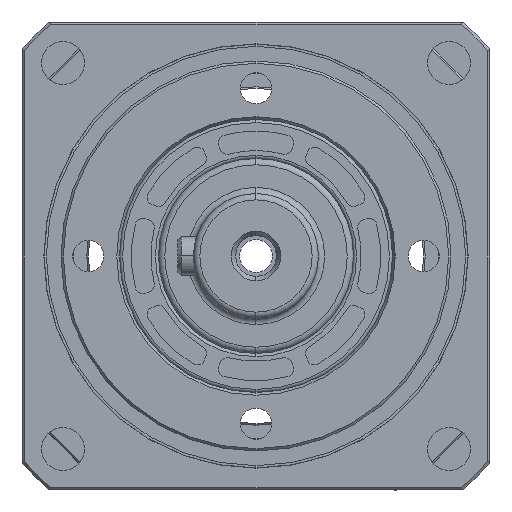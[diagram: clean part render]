
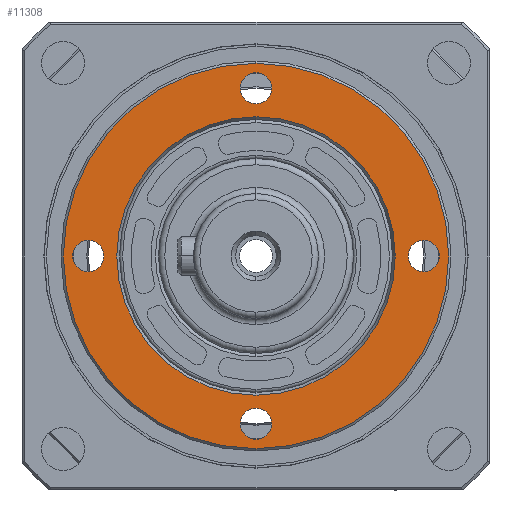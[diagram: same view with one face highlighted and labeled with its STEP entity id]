
A CAD part, left-side view. The second image highlights one B-rep face of the part: STEP entity #11308.
In plain terms, the highlighted planar face has unit normal (-1, 0, 0).
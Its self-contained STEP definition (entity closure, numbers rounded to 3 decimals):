
#87 = CIRCLE ( 'NONE', #8966, 2. ) ;
#105 = CIRCLE ( 'NONE', #8947, 2. ) ;
#169 = CIRCLE ( 'NONE', #1376, 17.846 ) ;
#1063 = EDGE_CURVE ( 'NONE', #4603, #4316, #169, .T. ) ;
#1101 = EDGE_CURVE ( 'NONE', #4268, #4592, #105, .T. ) ;
#1115 = EDGE_CURVE ( 'NONE', #4903, #5336, #87, .T. ) ;
#1144 = EDGE_CURVE ( 'NONE', #5336, #4903, #7669, .T. ) ;
#1145 = EDGE_CURVE ( 'NONE', #5014, #5523, #7677, .T. ) ;
#1146 = EDGE_CURVE ( 'NONE', #4592, #4268, #7683, .T. ) ;
#1151 = EDGE_CURVE ( 'NONE', #5032, #4926, #7712, .T. ) ;
#1177 = EDGE_CURVE ( 'NONE', #4316, #4603, #7520, .T. ) ;
#1178 = EDGE_CURVE ( 'NONE', #4685, #4678, #7738, .T. ) ;
#1182 = EDGE_CURVE ( 'NONE', #4926, #5032, #7740, .T. ) ;
#1186 = EDGE_CURVE ( 'NONE', #5523, #5014, #7626, .T. ) ;
#1333 = EDGE_CURVE ( 'NONE', #4678, #4685, #7233, .T. ) ;
#1376 = AXIS2_PLACEMENT_3D ( 'NONE', #13800, #13714, #13796 ) ;
#2892 = CARTESIAN_POINT ( 'NONE',  ( -43.961, -1.675, 17.846 ) ) ;
#3012 = CARTESIAN_POINT ( 'NONE',  ( -43.961, -1.675, -17.846 ) ) ;
#3027 = CARTESIAN_POINT ( 'NONE',  ( -43.961, 19.825, -2. ) ) ;
#3128 = CARTESIAN_POINT ( 'NONE',  ( -43.961, -1.675, 24.7 ) ) ;
#3149 = CARTESIAN_POINT ( 'NONE',  ( -43.961, -1.675, -24.7 ) ) ;
#3203 = CARTESIAN_POINT ( 'NONE',  ( -43.961, 19.825, 2. ) ) ;
#4268 = VERTEX_POINT ( 'NONE', #3027 ) ;
#4316 = VERTEX_POINT ( 'NONE', #2892 ) ;
#4592 = VERTEX_POINT ( 'NONE', #3203 ) ;
#4603 = VERTEX_POINT ( 'NONE', #3012 ) ;
#4678 = VERTEX_POINT ( 'NONE', #3128 ) ;
#4685 = VERTEX_POINT ( 'NONE', #3149 ) ;
#4903 = VERTEX_POINT ( 'NONE', #11674 ) ;
#4926 = VERTEX_POINT ( 'NONE', #11634 ) ;
#5014 = VERTEX_POINT ( 'NONE', #11617 ) ;
#5032 = VERTEX_POINT ( 'NONE', #11592 ) ;
#5336 = VERTEX_POINT ( 'NONE', #11444 ) ;
#5523 = VERTEX_POINT ( 'NONE', #11600 ) ;
#5720 = EDGE_LOOP ( 'NONE', ( #6874, #6872 ) ) ;
#5725 = EDGE_LOOP ( 'NONE', ( #6871, #6884 ) ) ;
#5728 = EDGE_LOOP ( 'NONE', ( #6891, #6892 ) ) ;
#5729 = EDGE_LOOP ( 'NONE', ( #6987, #6890 ) ) ;
#5731 = EDGE_LOOP ( 'NONE', ( #6889, #6901 ) ) ;
#5733 = EDGE_LOOP ( 'NONE', ( #6900, #6879 ) ) ;
#6871 = ORIENTED_EDGE ( 'NONE', *, *, #1144, .F. ) ;
#6872 = ORIENTED_EDGE ( 'NONE', *, *, #1101, .F. ) ;
#6874 = ORIENTED_EDGE ( 'NONE', *, *, #1146, .F. ) ;
#6879 = ORIENTED_EDGE ( 'NONE', *, *, #1063, .F. ) ;
#6884 = ORIENTED_EDGE ( 'NONE', *, *, #1115, .F. ) ;
#6889 = ORIENTED_EDGE ( 'NONE', *, *, #1178, .T. ) ;
#6890 = ORIENTED_EDGE ( 'NONE', *, *, #1151, .F. ) ;
#6891 = ORIENTED_EDGE ( 'NONE', *, *, #1186, .F. ) ;
#6892 = ORIENTED_EDGE ( 'NONE', *, *, #1145, .F. ) ;
#6900 = ORIENTED_EDGE ( 'NONE', *, *, #1177, .F. ) ;
#6901 = ORIENTED_EDGE ( 'NONE', *, *, #1333, .T. ) ;
#6987 = ORIENTED_EDGE ( 'NONE', *, *, #1182, .F. ) ;
#7233 = CIRCLE ( 'NONE', #8555, 24.7 ) ;
#7520 = CIRCLE ( 'NONE', #8959, 17.846 ) ;
#7626 = CIRCLE ( 'NONE', #8983, 2. ) ;
#7669 = CIRCLE ( 'NONE', #8975, 2. ) ;
#7677 = CIRCLE ( 'NONE', #8976, 2. ) ;
#7683 = CIRCLE ( 'NONE', #8977, 2. ) ;
#7712 = CIRCLE ( 'NONE', #8952, 2. ) ;
#7738 = CIRCLE ( 'NONE', #8960, 24.7 ) ;
#7740 = CIRCLE ( 'NONE', #8951, 2. ) ;
#7908 = PLANE ( 'NONE',  #12484 ) ;
#7912 = CARTESIAN_POINT ( 'NONE',  ( -43.961, 23.325, 0. ) ) ;
#7916 = DIRECTION ( 'NONE',  ( 1., 0., 0. ) ) ;
#7917 = DIRECTION ( 'NONE',  ( 0., 0., -1. ) ) ;
#8555 = AXIS2_PLACEMENT_3D ( 'NONE', #14184, #14183, #14181 ) ;
#8947 = AXIS2_PLACEMENT_3D ( 'NONE', #13572, #13573, #13567 ) ;
#8951 = AXIS2_PLACEMENT_3D ( 'NONE', #13894, #13937, #13931 ) ;
#8952 = AXIS2_PLACEMENT_3D ( 'NONE', #14380, #14379, #14377 ) ;
#8959 = AXIS2_PLACEMENT_3D ( 'NONE', #13642, #13631, #13629 ) ;
#8960 = AXIS2_PLACEMENT_3D ( 'NONE', #14439, #14438, #14437 ) ;
#8966 = AXIS2_PLACEMENT_3D ( 'NONE', #13505, #13508, #13504 ) ;
#8975 = AXIS2_PLACEMENT_3D ( 'NONE', #14289, #14302, #14300 ) ;
#8976 = AXIS2_PLACEMENT_3D ( 'NONE', #14296, #14316, #14314 ) ;
#8977 = AXIS2_PLACEMENT_3D ( 'NONE', #14309, #14322, #14320 ) ;
#8983 = AXIS2_PLACEMENT_3D ( 'NONE', #14011, #14010, #13990 ) ;
#11308 = ADVANCED_FACE ( 'NONE', ( #13008, #13007, #13010, #13009, #13012, #13103 ), #7908, .F. ) ;
#11444 = CARTESIAN_POINT ( 'NONE',  ( -43.961, -1.675, -19.5 ) ) ;
#11592 = CARTESIAN_POINT ( 'NONE',  ( -43.961, -1.675, 19.5 ) ) ;
#11600 = CARTESIAN_POINT ( 'NONE',  ( -43.961, -23.175, 2. ) ) ;
#11617 = CARTESIAN_POINT ( 'NONE',  ( -43.961, -23.175, -2. ) ) ;
#11634 = CARTESIAN_POINT ( 'NONE',  ( -43.961, -1.675, 23.5 ) ) ;
#11674 = CARTESIAN_POINT ( 'NONE',  ( -43.961, -1.675, -23.5 ) ) ;
#12484 = AXIS2_PLACEMENT_3D ( 'NONE', #7912, #7916, #7917 ) ;
#13007 = FACE_BOUND ( 'NONE', #5725, .T. ) ;
#13008 = FACE_BOUND ( 'NONE', #5720, .T. ) ;
#13009 = FACE_BOUND ( 'NONE', #5728, .T. ) ;
#13010 = FACE_BOUND ( 'NONE', #5729, .T. ) ;
#13012 = FACE_OUTER_BOUND ( 'NONE', #5731, .T. ) ;
#13103 = FACE_BOUND ( 'NONE', #5733, .T. ) ;
#13504 = DIRECTION ( 'NONE',  ( 0., 0., 1. ) ) ;
#13505 = CARTESIAN_POINT ( 'NONE',  ( -43.961, -1.675, -21.5 ) ) ;
#13508 = DIRECTION ( 'NONE',  ( -1., 0., 0. ) ) ;
#13567 = DIRECTION ( 'NONE',  ( 0., 0., 1. ) ) ;
#13572 = CARTESIAN_POINT ( 'NONE',  ( -43.961, 19.825, 0. ) ) ;
#13573 = DIRECTION ( 'NONE',  ( -1., 0., 0. ) ) ;
#13629 = DIRECTION ( 'NONE',  ( 0., 0., 1. ) ) ;
#13631 = DIRECTION ( 'NONE',  ( -1., 0., 0. ) ) ;
#13642 = CARTESIAN_POINT ( 'NONE',  ( -43.961, -1.675, 0. ) ) ;
#13714 = DIRECTION ( 'NONE',  ( -1., 0., 0. ) ) ;
#13796 = DIRECTION ( 'NONE',  ( 0., 0., 1. ) ) ;
#13800 = CARTESIAN_POINT ( 'NONE',  ( -43.961, -1.675, 0. ) ) ;
#13894 = CARTESIAN_POINT ( 'NONE',  ( -43.961, -1.675, 21.5 ) ) ;
#13931 = DIRECTION ( 'NONE',  ( 0., 0., 1. ) ) ;
#13937 = DIRECTION ( 'NONE',  ( -1., 0., 0. ) ) ;
#13990 = DIRECTION ( 'NONE',  ( 0., 0., 1. ) ) ;
#14010 = DIRECTION ( 'NONE',  ( -1., 0., 0. ) ) ;
#14011 = CARTESIAN_POINT ( 'NONE',  ( -43.961, -23.175, 0. ) ) ;
#14181 = DIRECTION ( 'NONE',  ( 0., 0., -1. ) ) ;
#14183 = DIRECTION ( 'NONE',  ( -1., 0., 0. ) ) ;
#14184 = CARTESIAN_POINT ( 'NONE',  ( -43.961, -1.675, 0. ) ) ;
#14289 = CARTESIAN_POINT ( 'NONE',  ( -43.961, -1.675, -21.5 ) ) ;
#14296 = CARTESIAN_POINT ( 'NONE',  ( -43.961, -23.175, 0. ) ) ;
#14300 = DIRECTION ( 'NONE',  ( 0., 0., 1. ) ) ;
#14302 = DIRECTION ( 'NONE',  ( -1., 0., 0. ) ) ;
#14309 = CARTESIAN_POINT ( 'NONE',  ( -43.961, 19.825, 0. ) ) ;
#14314 = DIRECTION ( 'NONE',  ( 0., 0., 1. ) ) ;
#14316 = DIRECTION ( 'NONE',  ( -1., 0., 0. ) ) ;
#14320 = DIRECTION ( 'NONE',  ( 0., 0., 1. ) ) ;
#14322 = DIRECTION ( 'NONE',  ( -1., 0., 0. ) ) ;
#14377 = DIRECTION ( 'NONE',  ( 0., 0., 1. ) ) ;
#14379 = DIRECTION ( 'NONE',  ( -1., 0., 0. ) ) ;
#14380 = CARTESIAN_POINT ( 'NONE',  ( -43.961, -1.675, 21.5 ) ) ;
#14437 = DIRECTION ( 'NONE',  ( 0., 0., -1. ) ) ;
#14438 = DIRECTION ( 'NONE',  ( -1., 0., 0. ) ) ;
#14439 = CARTESIAN_POINT ( 'NONE',  ( -43.961, -1.675, 0. ) ) ;
